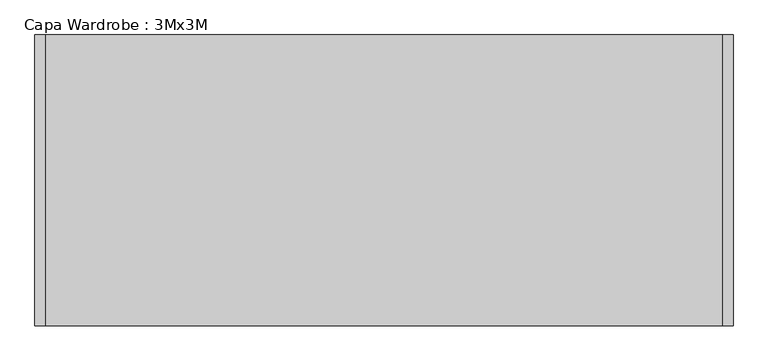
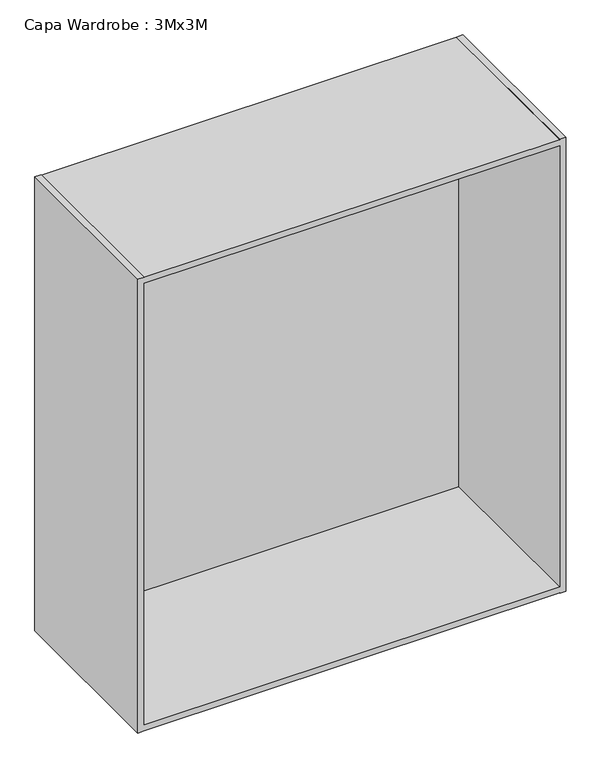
"""IFC4 building model written with IfcOpenShell, lengths in millimetres: furniture geometry, Capa Wardrobe : 3Mx3M."""

from ifc_helpers import new_model, si_unit, point, frame, frame_2d, origin, place, context, project, spatial, polyline, circle_curve, trimmed, segment, composite_curve, outline, extrude, faceted_brep, source, transform, mapped, element, save


def capa_wardrobe_3mx3m_9338696b(model_context):
    return source(origin(), model_context, "Body", "SolidModel", [
        extrude(outline(composite_curve([segment(polyline([(-250.0, 1244.0), (-250.0, 1224.0)]), True, "CONTINUOUS"), segment(trimmed(circle_curve(frame_2d((-258.0, 1224.0)), 8.0), [point((-250.0, 1224.0))], [point((-266.0, 1224.0))], False, "CARTESIAN"), True, "CONTINUOUS"), segment(polyline([(-266.0, 1224.0), (-266.0, 1244.0)]), True, "CONTINUOUS"), segment(trimmed(circle_curve(frame_2d((-258.0, 1244.0)), 8.0), [point((-266.0, 1244.0))], [point((-250.0, 1244.0))], False, "CARTESIAN"), True, "CONTINUOUS")], self_intersect=False)), frame((-582.0, 0.0, 0.0), z_axis=(1.0, 0.0, 0.0), x_axis=(0.0, 1.0, 0.0)), (0.0, 0.0, 1.0), 1164.0),
        faceted_brep([(-582.0, 0.0, 1344.0), (-582.0, 0.0, 1343.0), (582.0, 0.0, 1343.0), (582.0, 0.0, 1344.0), (600.0, 0.0, 1344.0), (600.0, 0.0, 0.0), (582.0, 0.0, 0.0), (582.0, 0.0, 1.0), (-582.0, 0.0, 1.0), (-582.0, 0.0, 0.0), (-600.0, 0.0, 0.0), (-600.0, 0.0, 1344.0), (582.0, -10.0, 19.0), (582.0, -10.0, 1325.0), (-582.0, -10.0, 1325.0), (-582.0, -10.0, 19.0), (-582.0, -500.0, 1344.0), (-600.0, -500.0, 1344.0), (-600.0, -500.0, 0.0), (-582.0, -500.0, 0.0), (-582.0, -500.0, 1.0), (582.0, -500.0, 1.0), (582.0, -500.0, 0.0), (600.0, -500.0, 0.0), (600.0, -500.0, 1344.0), (582.0, -500.0, 1344.0), (582.0, -500.0, 1343.0), (-582.0, -500.0, 1343.0), (582.0, -500.0, 1325.0), (582.0, -500.0, 19.0), (-582.0, -500.0, 19.0), (-582.0, -500.0, 1325.0)], [[[0, 1, 2, 3, 4, 5, 6, 7, 8, 9, 10, 11]], [[12, 13, 14, 15]], [[16, 17, 18, 19, 20, 21, 22, 23, 24, 25, 26, 27], [28, 29, 30, 31]], [[17, 16, 0, 11]], [[18, 17, 11, 10]], [[23, 22, 6, 5]], [[24, 23, 5, 4]], [[19, 18, 10, 9]], [[20, 19, 9, 8]], [[21, 20, 8, 7]], [[22, 21, 7, 6]], [[25, 24, 4, 3]], [[26, 25, 3, 2]], [[27, 26, 2, 1]], [[16, 27, 1, 0]], [[29, 28, 13, 12]], [[30, 29, 12, 15]], [[31, 30, 15, 14]], [[28, 31, 14, 13]]]),
    ])


if __name__ == "__main__":
    model = new_model("IFC4")
    model_context = context("Model", 3, world=origin())
    ifc_project = project(units=[si_unit("LENGTHUNIT", "METRE", prefix="MILLI")], contexts=[model_context])
    site = spatial("IfcSite", under=ifc_project)
    building = spatial("IfcBuilding", under=site)
    placement = place(None, origin())
    capa_wardrobe_3mx3m_shape = capa_wardrobe_3mx3m_9338696b(model_context)
    element("IfcFurniture", 1, ObjectType="Capa Wardrobe : 3Mx3M", at=placement, inside=building, context=model_context, shape_type="MappedRepresentation", body=[
        mapped(capa_wardrobe_3mx3m_shape, transform((0.0, 0.0, 0.0), x_axis=(1.0, 0.0, 0.0), y_axis=(0.0, 1.0, 0.0), z_axis=(0.0, 0.0, 1.0))),
    ])
    save(model, "model.ifc")
